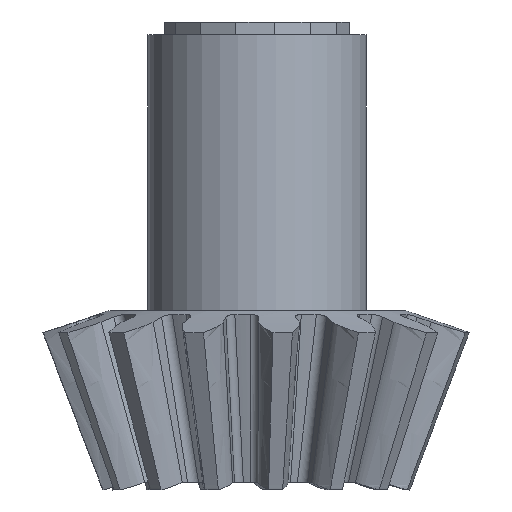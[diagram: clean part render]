
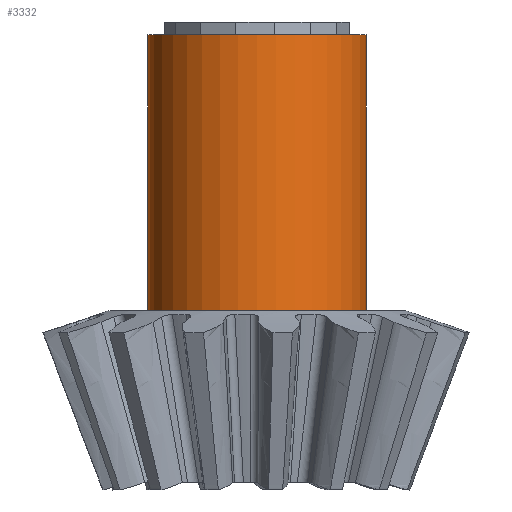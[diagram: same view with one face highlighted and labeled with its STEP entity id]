
A CAD part, front view. The second image highlights one B-rep face of the part: STEP entity #3332.
In plain terms, the highlighted cylindrical face has radius 3.81 mm (diameter 7.62 mm), a full revolution.
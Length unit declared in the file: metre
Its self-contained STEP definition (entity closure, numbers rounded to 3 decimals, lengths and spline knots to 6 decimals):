
#1758=ORIENTED_EDGE('',*,*,#2325,.T.);
#1759=ORIENTED_EDGE('',*,*,#2326,.T.);
#2325=EDGE_CURVE('',#2707,#2707,#2821,.T.);
#2326=EDGE_CURVE('',#2708,#2708,#2822,.F.);
#2707=VERTEX_POINT('',#9137);
#2708=VERTEX_POINT('',#9140);
#2821=CIRCLE('',#3570,0.00381);
#2822=CIRCLE('',#3572,0.00381);
#2967=EDGE_LOOP('',(#1758));
#2968=EDGE_LOOP('',(#1759));
#3135=FACE_BOUND('',#2967,.T.);
#3136=FACE_BOUND('',#2968,.T.);
#3191=CYLINDRICAL_SURFACE('',#3571,0.00381);
#3332=ADVANCED_FACE('',(#3135,#3136),#3191,.T.);
#3570=AXIS2_PLACEMENT_3D('',#9136,#4211,#4212);
#3571=AXIS2_PLACEMENT_3D('',#9138,#4213,#4214);
#3572=AXIS2_PLACEMENT_3D('',#9139,#4215,#4216);
#4211=DIRECTION('',(0.,0.,1.));
#4212=DIRECTION('',(1.,0.,0.));
#4213=DIRECTION('',(0.,0.,-1.));
#4214=DIRECTION('',(-1.,0.,0.));
#4215=DIRECTION('',(0.,0.,1.));
#4216=DIRECTION('',(1.,0.,0.));
#9136=CARTESIAN_POINT('',(0.,0.01905,-0.010065));
#9137=CARTESIAN_POINT('',(0.00381,0.01905,-0.010065));
#9138=CARTESIAN_POINT('',(0.,0.01905,0.00794));
#9139=CARTESIAN_POINT('',(0.,0.01905,-0.000445));
#9140=CARTESIAN_POINT('',(0.00381,0.01905,-0.000445));
